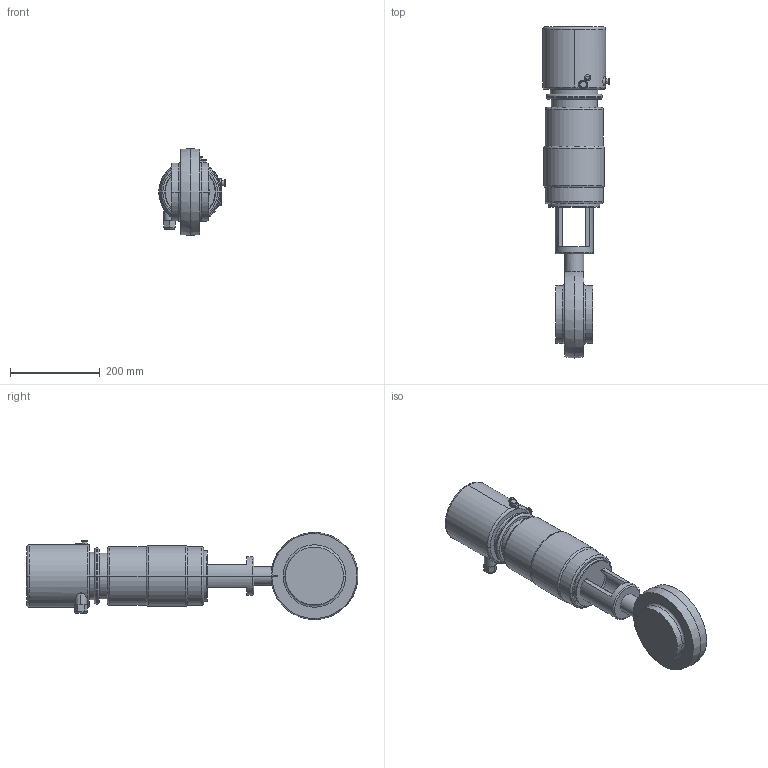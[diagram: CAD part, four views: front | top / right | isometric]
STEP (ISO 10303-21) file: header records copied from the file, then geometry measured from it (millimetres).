
FILE_DESCRIPTION(('Creo Elements/Direct Modeling STEP Export'),'2;1');
FILE_NAME('SV1-125-CU4-12S.stp','2016-08-15T10:31:50',(''),(''),'PTC Creo Elements/Direct Modeling STEP processor for AP214 (Solid Model)','PTC Creo Elements/Direct Modeling 19.0B 21-Mar-2015 (C) Parametric Technology GmbH','');
FILE_SCHEMA(('AUTOMOTIVE_DESIGN { 1 0 10303 214 1 1 1 1 }'));
Length unit declared in the file: millimetre
Products named in the file (4): SV1-FZ-125; SV1-FZ-125-CU; CU4-T-SPX_logo; SV1-DN125-FZ-CU4-12S
Assembly tree (3 placements, depth 3):
  SV1-DN125-FZ-CU4-12S
    CU4-T-SPX_logo
    SV1-FZ-125-CU
      SV1-FZ-125
Bounding box: 148 x 739.5 x 193.95 mm (x, y, z)
Volume: 7495563.1 mm3; surface area: 369724.5 mm2
Topology: 2 solids, 2 shells, 202 faces, 495 edges, 319 vertices
Faces by surface type: cylinder 76, plane 61, extrusion 33, torus 32
Entity records: 10645 total; most frequent: CARTESIAN_POINT 6137, ORIENTED_EDGE 990, DIRECTION 779, EDGE_CURVE 495, VERTEX_POINT 319, AXIS2_PLACEMENT_3D 296, EDGE_LOOP 226, FACE_OUTER_BOUND 202
